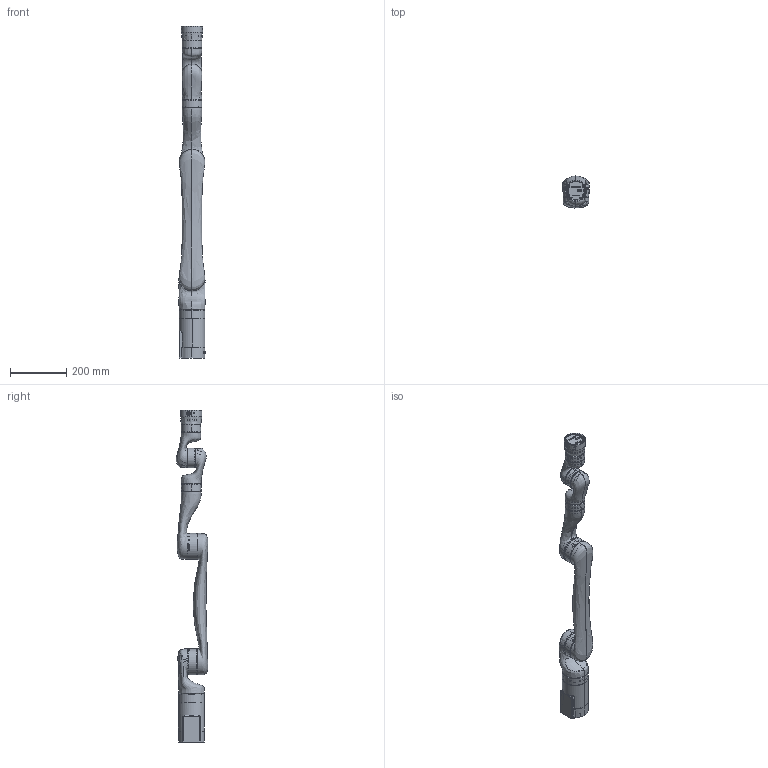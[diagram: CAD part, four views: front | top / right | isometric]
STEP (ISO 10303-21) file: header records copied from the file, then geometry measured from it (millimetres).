
FILE_DESCRIPTION (( 'STEP AP214' ), '1' );
FILE_NAME ('GEN3_6DOF_SPHERICAL_NO-VISION_V01.STEP', '2020-03-03T21:05:41', ( '' ), ( '' ), 'SwSTEP 2.0', 'SolidWorks 2018', '' );
FILE_SCHEMA (( 'AUTOMOTIVE_DESIGN' ));
Length unit declared in the file: millimetre
Products named in the file (38): GEN3 SIMPLIFIED Forearm; GEN3 SIMPLIFIED SHOULDER; KR12943; KR10643; Bicep_Control; GEN3 SIMPLIFIED No-VISION with interface NO GRIPPER NO CAP; GEN3 SIMPLIFIED WRIST 1; GEN3 SIMPLIFIED BASE; GEN3 SIMPLIFIED FOREARM; GEN3 EMPTY SIMPLIFIED END EFFECTOR; GEN3 SIMPLIFIED BICEP; GEN3 SIMPLIFIED Spherical Wrist1; GEN3 SIMPLIFIED BIG RA RING ; GEN3 SIMPLIFIED WRIST 2; GEN3 SIMPLIFIED No-Vision; GEN3_6DOF_SPHERICAL_NO-VISION_V01; GEN3 SIMPLIFIED Spherical Wrist2
Assembly tree (25 placements, depth 3):
  GEN3 SIMPLIFIED SHOULDER
  KR12943
  KR10643
  GEN3 SIMPLIFIED No-VISION with interface NO GRIPPER NO CAP
  KR12943
Bounding box: 92.81 x 112.69 x 1179.5 mm (x, y, z)
Volume: 3054207.3 mm3; surface area: 875714.6 mm2
Topology: 28 solids, 45 shells, 1551 faces, 3723 edges, 2293 vertices
Faces by surface type: cylinder 490, plane 377, cone 351, torus 170, bspline 159, sphere 4
Entity records: 210331 total; most frequent: CARTESIAN_POINT 166056, DIRECTION 7248, ORIENTED_EDGE 7210, EDGE_CURVE 3605, AXIS2_PLACEMENT_3D 2929, VERTEX_POINT 2241, EDGE_LOOP 1670, CIRCLE 1554
